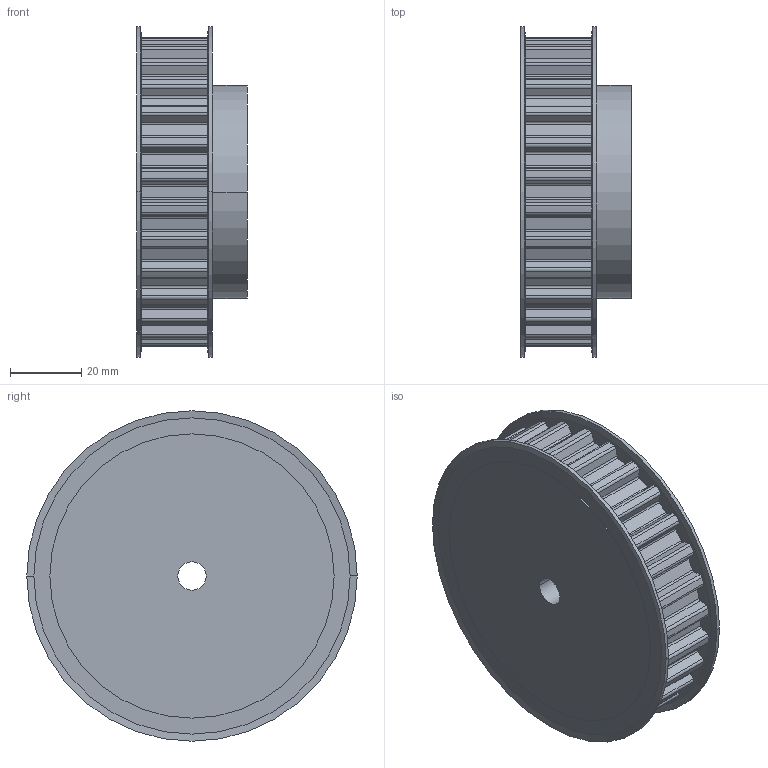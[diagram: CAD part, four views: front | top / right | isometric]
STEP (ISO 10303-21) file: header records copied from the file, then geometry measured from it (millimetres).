
FILE_DESCRIPTION( ( '' ), '1' );
FILE_NAME( 'C:/Users/Stangenbergd/Documents/CAD_Step/1/16422800.stp', '2021-10-19T08:53:49', ( '' ), ( '' ), ' ', ' ', ' ' );
FILE_SCHEMA( ( 'CONFIG_CONTROL_DESIGN' ) );
Length unit declared in the file: millimetre
Products named in the file (1): 1
Bounding box: 31.13 x 93 x 93 mm (x, y, z)
Volume: 144116.2 mm3; surface area: 26702.5 mm2
Topology: 1 solids, 1 shells, 251 faces, 724 edges, 480 vertices
Faces by surface type: cylinder 152, plane 91, cone 8
Entity records: 8414 total; most frequent: DIRECTION 1540, CARTESIAN_POINT 1456, ORIENTED_EDGE 1448, EDGE_CURVE 724, AXIS2_PLACEMENT_3D 564, VERTEX_POINT 480, LINE 412, VECTOR 412
